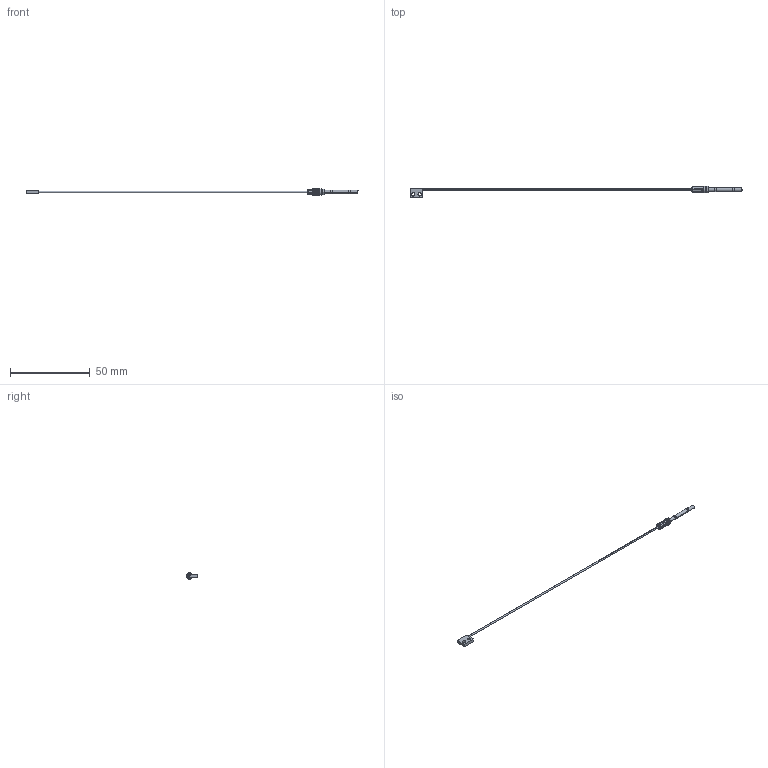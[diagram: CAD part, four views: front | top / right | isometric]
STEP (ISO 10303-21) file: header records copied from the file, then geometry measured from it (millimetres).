
FILE_DESCRIPTION (( 'STEP AP214' ), '1' );
FILE_NAME ('FTFU-210-05R.STEP', '2019-06-18T02:24:37', ( '' ), ( '' ), 'SwSTEP 2.0', 'SolidWorks 2018', '' );
FILE_SCHEMA (( 'AUTOMOTIVE_DESIGN' ));
Length unit declared in the file: millimetre
Products named in the file (1): FTFU-210-05R
Bounding box: 208 x 7 x 4 mm (x, y, z)
Volume: 398 mm3; surface area: 1009.4 mm2
Topology: 1 solids, 1 shells, 96 faces, 222 edges, 136 vertices
Faces by surface type: plane 56, cylinder 30, torus 6, cone 4
Entity records: 2902 total; most frequent: CARTESIAN_POINT 599, DIRECTION 454, ORIENTED_EDGE 444, EDGE_CURVE 222, AXIS2_PLACEMENT_3D 183, VERTEX_POINT 136, EDGE_LOOP 108, ADVANCED_FACE 96
